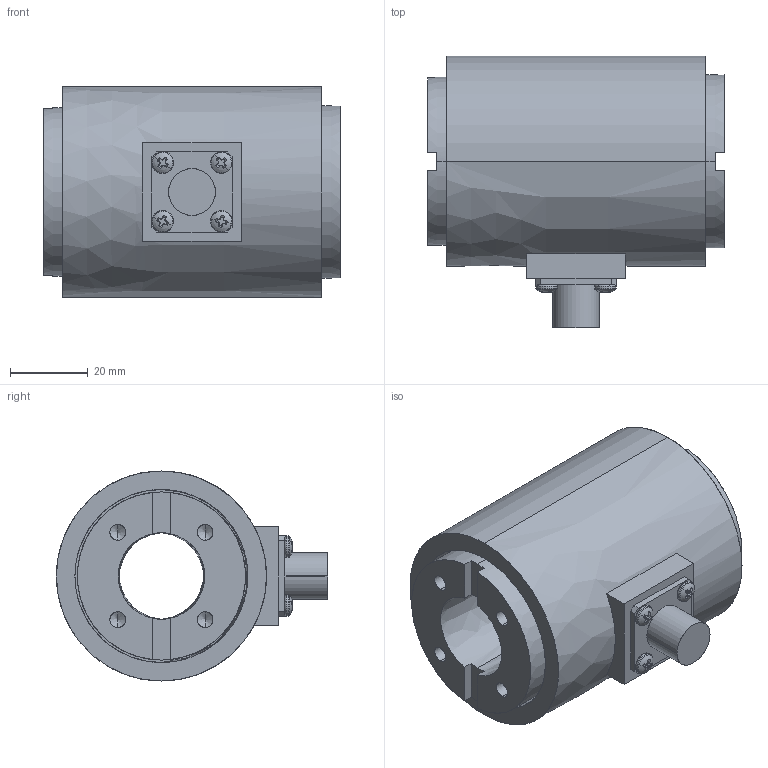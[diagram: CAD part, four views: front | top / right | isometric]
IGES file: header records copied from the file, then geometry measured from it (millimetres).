
Start section: SolidWorks IGES file using analytic representation for surfaces
Global section: file name: Q:\~DRAWING FILES\Reaction Torque Sensors\15228\Updated Drawings in Solidworks\15228-ASSY Cad Exports\15228-3-ASSY- REACTION TORQUE SENSOR.IGS; native system: SolidWorks 2016; preprocessor: SolidWorks 2016; author: jromanelli; date: 171128.140136; units: inch
Bounding box: 76.2 x 69.68 x 53.98 mm (x, y, z)
Surface area: 45846.3 mm2 (no closed solid volume)
Topology: 0 solids, 0 shells, 611 faces, 11260 edges, 11244 vertices
Faces by surface type: revolution 475, bspline 136
